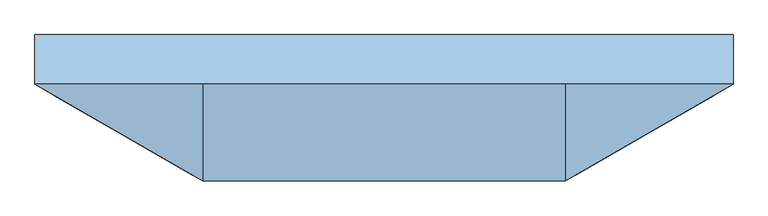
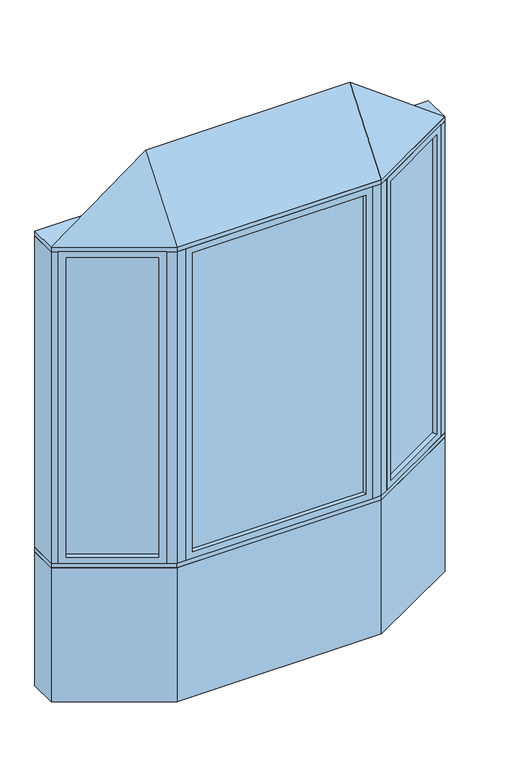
"""IFC4 building model written with IfcOpenShell, lengths in millimetres: window geometry, Pollard_Windows_Tudor Casement Bows and Bays : AML-BAY 30 AFR0618-10-500."""

import ifcopenshell
import ifcopenshell.guid

model = None  # the IFC model being written
_history = None  # IfcOwnerHistory: only IFC2X3 demands one
_inside = {}  # id of a spatial element -> (the spatial element, [elements in it])
_under = {}  # id of a project, library or spatial element -> (it, [spatial elements below it])
_declared = {}  # id of a project -> (the project, [libraries it declares])
_typed = {}  # id of a type object -> (the type object, [elements of that type])
_made_of = {}  # id of a material, layer set ... -> (it, [elements and type objects made of it])


def new_model(schema):
    """Start an empty IFC model of exactly this schema.

    Asked for "IFC4X3", IfcOpenShell would pick the latest addendum, in which some entities
    have other attributes; the version numbers below select the first issue.
    IFC2X3 requires an IfcOwnerHistory on every rooted entity: one is made here for all.
    """
    global model, _history
    if schema == "IFC4X3":
        model = ifcopenshell.file(schema_version=(4, 3, 0, 0))
    else:
        model = ifcopenshell.file(schema=schema)
    _inside.clear()
    _under.clear()
    _declared.clear()
    _typed.clear()
    _made_of.clear()
    _history = None
    if model.schema == "IFC2X3":
        org = make("IfcOrganization", Name="unknown")
        user = make(
            "IfcPersonAndOrganization",
            ThePerson=make("IfcPerson", FamilyName="unknown"),
            TheOrganization=org,
        )
        app = make(
            "IfcApplication",
            ApplicationDeveloper=org,
            Version="unknown",
            ApplicationFullName="unknown",
            ApplicationIdentifier="unknown",
        )
        _history = make(
            "IfcOwnerHistory",
            OwningUser=user,
            OwningApplication=app,
            ChangeAction="ADDED",
            CreationDate=0,
        )
    return model


def make(cls, **values):
    """One entity of the class cls with the attributes given. An attribute that is None is left unset."""
    return model.create_entity(
        cls, **{name: value for name, value in values.items() if value is not None}
    )


def rooted(cls, **values):
    """An entity with a GlobalId (a new one), such as an element, a storey or a relation."""
    return make(cls, GlobalId=ifcopenshell.guid.new(), OwnerHistory=_history, **values)


def si_unit(unit_type, name, prefix=None):
    """IfcSIUnit, for example si_unit("LENGTHUNIT", "METRE", prefix="MILLI")."""
    return make("IfcSIUnit", UnitType=unit_type, Prefix=prefix, Name=name)


def assignment(units):
    """IfcUnitAssignment: the units of a project."""
    return None if units is None else make("IfcUnitAssignment", Units=units)


def point(xyz):
    """IfcCartesianPoint."""
    return None if xyz is None else make("IfcCartesianPoint", Coordinates=xyz)


def direction(xyz):
    """IfcDirection."""
    return None if xyz is None else make("IfcDirection", DirectionRatios=xyz)


def frame(location, z_axis=None, x_axis=None):
    """IfcAxis2Placement3D, a coordinate frame: its origin and axes. An axis left out is left unset."""
    return make(
        "IfcAxis2Placement3D",
        Location=point(location),
        Axis=direction(z_axis),
        RefDirection=direction(x_axis),
    )


def origin():
    """The frame at (0, 0, 0) with its axes left unset."""
    return frame((0.0, 0.0, 0.0))


def origin_with_axes():
    """The frame at (0, 0, 0) with the z axis (0, 0, 1) and the x axis (1, 0, 0) written out."""
    return frame((0.0, 0.0, 0.0), z_axis=(0.0, 0.0, 1.0), x_axis=(1.0, 0.0, 0.0))


def place(relative_to, where):
    """IfcLocalPlacement: puts the frame where relative to a parent placement (None: the world)."""
    return make(
        "IfcLocalPlacement", PlacementRelTo=relative_to, RelativePlacement=where
    )


def context(
    kind, dimensions, precision=None, world=None, true_north=None, identifier=None
):
    """IfcGeometricRepresentationContext, for example the 3D "Model" context."""
    return make(
        "IfcGeometricRepresentationContext",
        ContextIdentifier=identifier,
        ContextType=kind,
        CoordinateSpaceDimension=dimensions,
        Precision=precision,
        WorldCoordinateSystem=world,
        TrueNorth=true_north,
    )


def project(units=None, contexts=None):
    """IfcProject with its units and contexts."""
    return rooted(
        "IfcProject",
        Name="project",
        RepresentationContexts=contexts,
        UnitsInContext=assignment(units),
    )


def spatial(cls, under=None, at=None, **own):
    """A site, building, storey or space (cls), placed at a placement, below another one or the project."""
    s = rooted(cls, ObjectPlacement=at, **own)
    if under is not None:
        _under.setdefault(under.id(), (under, []))[1].append(s)
    return s


def polyline(points):
    """IfcPolyline through the points."""
    return make("IfcPolyline", Points=[point(p) for p in points])


def outline(outer, holes=None, kind="AREA"):
    """IfcArbitraryClosedProfileDef: a profile drawn as a closed curve; with holes, ...WithVoids."""
    if holes is None:
        return make("IfcArbitraryClosedProfileDef", ProfileType=kind, OuterCurve=outer)
    return make(
        "IfcArbitraryProfileDefWithVoids",
        ProfileType=kind,
        OuterCurve=outer,
        InnerCurves=holes,
    )


def extrude(swept, where, along, depth):
    """IfcExtrudedAreaSolid: the profile swept, set in the frame where, extruded along a direction by depth."""
    return make(
        "IfcExtrudedAreaSolid",
        SweptArea=swept,
        Position=where,
        ExtrudedDirection=direction(along),
        Depth=depth,
    )


def faces_of(points, faces, orient=None, outer=None):
    """IfcFace entities. A face is a list of loops; a loop is a list of indices into points, from 0.

    orient and outer hold one flag for each loop. By default every Orientation is true, the
    first loop of a face is its IfcFaceOuterBound and the others are IfcFaceBound.
    """
    made = []
    for i, loops in enumerate(faces):
        bounds = []
        for j, loop in enumerate(loops):
            is_outer = j == 0 if outer is None else outer[i][j]
            bounds.append(
                make(
                    "IfcFaceOuterBound" if is_outer else "IfcFaceBound",
                    Bound=make("IfcPolyLoop", Polygon=[points[k] for k in loop]),
                    Orientation=True if orient is None else orient[i][j],
                )
            )
        made.append(make("IfcFace", Bounds=bounds))
    return made


def faceted_brep(points, faces, orient=None, outer=None, voids=None):
    """IfcFacetedBrep: a solid bounded by flat faces; with voids (closed shells), ...WithVoids."""
    shared = [point(p) for p in points]
    hull = make("IfcClosedShell", CfsFaces=faces_of(shared, faces, orient, outer))
    if voids is None:
        return make("IfcFacetedBrep", Outer=hull)
    return make(
        "IfcFacetedBrepWithVoids",
        Outer=hull,
        Voids=[
            make(cls, CfsFaces=faces_of(shared, fs, o, b)) for cls, fs, o, b in voids
        ],
    )


def shape(context_of_items, identifier, shape_type, items):
    """IfcShapeRepresentation: the items that make up one representation, for example the "Body"."""
    return make(
        "IfcShapeRepresentation",
        ContextOfItems=context_of_items,
        RepresentationIdentifier=identifier,
        RepresentationType=shape_type,
        Items=items,
    )


def source(mapping_origin, context_of_items, identifier, shape_type, items):
    """IfcRepresentationMap: a shape defined once, which mapped items show again and again."""
    return make(
        "IfcRepresentationMap",
        MappingOrigin=mapping_origin,
        MappedRepresentation=shape(context_of_items, identifier, shape_type, items),
    )


def transform(
    local_origin,
    x_axis=None,
    y_axis=None,
    z_axis=None,
    scale=None,
    scale2=None,
    scale3=None,
    uniform=True,
):
    """IfcCartesianTransformationOperator3D, or its non-uniform kind. x_axis, y_axis, z_axis: its Axis1, 2, 3."""
    if uniform:
        return make(
            "IfcCartesianTransformationOperator3D",
            Axis1=direction(x_axis),
            Axis2=direction(y_axis),
            LocalOrigin=point(local_origin),
            Scale=scale,
            Axis3=direction(z_axis),
        )
    return make(
        "IfcCartesianTransformationOperator3DnonUniform",
        Axis1=direction(x_axis),
        Axis2=direction(y_axis),
        LocalOrigin=point(local_origin),
        Scale=scale,
        Axis3=direction(z_axis),
        Scale2=scale2,
        Scale3=scale3,
    )


def mapped(mapping_source, mapping_target):
    """IfcMappedItem: shows the shape of a source again, moved by a transform."""
    return make(
        "IfcMappedItem", MappingSource=mapping_source, MappingTarget=mapping_target
    )


def made_of(thing, what):
    """Note that an element or type object is made of a material, layer set ...; save() writes the relation."""
    if what is not None:
        _made_of.setdefault(what.id(), (what, []))[1].append(thing)
    return thing


def element(
    cls,
    number,
    at=None,
    inside=None,
    cuts=None,
    type_object=None,
    material=None,
    context=None,
    identifier="Body",
    shape_type=None,
    held_by="IfcProductDefinitionShape",
    body=None,
    shapes=None,
    **own,
):
    """One element of the class cls, such as IfcWall. Its Tag is "e" and its number.

    at: its placement. inside: the storey or other place that contains it. cuts: it is an
    opening in that element (IfcRelVoidsElement). A single representation is given by context,
    identifier, shape_type and body (its items); several are given by shapes. held_by: the class
    of the entity that holds the representations. save() writes the other relations.
    """
    e = rooted(cls, Tag="e%d" % number, ObjectPlacement=at, **own)
    if body is not None:
        shapes = [shape(context, identifier, shape_type, body)]
    if shapes is not None:
        e.Representation = make(held_by, Representations=shapes)
    if inside is not None:
        _inside.setdefault(inside.id(), (inside, []))[1].append(e)
    if cuts is not None:
        rooted(
            "IfcRelVoidsElement", RelatingBuildingElement=cuts, RelatedOpeningElement=e
        )
    if type_object is not None:
        _typed.setdefault(type_object.id(), (type_object, []))[1].append(e)
    return made_of(e, material)


def aggregate(whole, parts):
    """IfcRelAggregates: a whole, such as a stair, and the parts it consists of."""
    return rooted("IfcRelAggregates", RelatingObject=whole, RelatedObjects=parts)


def save(model, path):
    """Write the relations noted so far, then the file.

    IfcRelAggregates (storeys below a building ...), IfcRelContainedInSpatialStructure (elements
    in a storey), IfcRelDefinesByType, IfcRelAssociatesMaterial and IfcRelDeclares: one each for
    every whole, place, type object, material and project.
    """
    for whole, parts in _under.values():
        aggregate(whole, parts)
    for where, things in _inside.values():
        rooted(
            "IfcRelContainedInSpatialStructure",
            RelatedElements=things,
            RelatingStructure=where,
        )
    for kind, things in _typed.values():
        rooted("IfcRelDefinesByType", RelatedObjects=things, RelatingType=kind)
    for what, things in _made_of.values():
        rooted("IfcRelAssociatesMaterial", RelatedObjects=things, RelatingMaterial=what)
    for by, libraries in _declared.values():
        rooted("IfcRelDeclares", RelatingContext=by, RelatedDefinitions=libraries)
    model.write(path)


def window_d05f0d2b(model_context):
    return source(origin(), model_context, "Body", "SolidModel", [
        extrude(outline(polyline([(1013.112102, -82.0482469), (610.2320119, -314.6511754), (607.6920119, -310.2517664), (1010.572102, -77.6488379), (1013.112102, -82.0482469)])), frame((0.0, 0.0, 823.1628), z_axis=(0.0, 0.0, 1.0), x_axis=(1.0, 0.0, 0.0)), (0.0, 0.0, 1.0), 1753.6704),
        faceted_brep([(1002.1135794, -88.3982469, 835.8628), (1014.8135794, -110.3952922, 835.8628), (1014.8135794, -110.3952922, 2564.1332), (1002.1135794, -88.3982469, 2564.1332), (1010.572102, -77.6488379, 823.1628), (1013.112102, -82.0482469, 823.1628), (1013.112102, -82.0482469, 2576.8332), (1010.572102, -77.6488379, 2576.8332), (986.8735794, -62.0017926, 835.8628), (999.5735794, -83.9988379, 835.8628), (999.5735794, -83.9988379, 2564.1332), (986.8735794, -62.0017926, 2564.1332), (1045.8734073, -92.4628922, 799.998), (1017.9334073, -44.0693926, 799.998), (1017.9334073, -44.0693926, 2599.998), (1045.8734073, -92.4628922, 2599.998), (633.9305346, -330.2982207, 2564.1332), (621.2305346, -308.3011754, 2564.1332), (610.2320119, -314.6511754, 2576.8332), (607.6920119, -310.2517664, 2576.8332), (618.6905346, -303.9017664, 2564.1332), (605.9905346, -281.9047211, 2564.1332), (574.9307067, -299.8371211, 2599.998), (602.8707067, -348.2306207, 2599.998), (633.9305346, -330.2982207, 835.8628), (621.2305346, -308.3011754, 835.8628), (610.2320119, -314.6511754, 823.1628), (607.6920119, -310.2517664, 823.1628), (618.6905346, -303.9017664, 835.8628), (605.9905346, -281.9047211, 835.8628), (574.9307067, -299.8371211, 799.998), (602.8707067, -348.2306207, 799.998)], [[[0, 1, 2, 3]], [[4, 5, 6, 7]], [[8, 9, 10, 11]], [[12, 13, 14, 15]], [[3, 2, 16, 17]], [[7, 6, 18, 19]], [[11, 10, 20, 21]], [[15, 14, 22, 23]], [[17, 16, 24, 25]], [[19, 18, 26, 27]], [[21, 20, 28, 29]], [[23, 22, 30, 31]], [[25, 24, 1, 0]], [[5, 26, 18, 6], [3, 17, 25, 0]], [[27, 26, 5, 4]], [[7, 19, 27, 4], [9, 28, 20, 10]], [[29, 28, 9, 8]], [[13, 30, 22, 14], [11, 21, 29, 8]], [[31, 30, 13, 12]], [[15, 23, 31, 12], [1, 24, 16, 2]]]),
        extrude(outline(polyline([(-610.2320119, -314.6511754), (-1013.112102, -82.0482469), (-1010.572102, -77.6488379), (-607.6920119, -310.2517664), (-610.2320119, -314.6511754)])), frame((0.0, 0.0, 823.1628), z_axis=(0.0, 0.0, 1.0), x_axis=(1.0, 0.0, 0.0)), (0.0, 0.0, 1.0), 1753.6704),
        faceted_brep([(-618.6905346, -303.9017664, 2564.1332), (-605.9905346, -281.9047211, 2564.1332), (-605.9905346, -281.9047211, 835.8628), (-618.6905346, -303.9017664, 835.8628), (-610.2320119, -314.6511754, 2576.8332), (-607.6920119, -310.2517664, 2576.8332), (-607.6920119, -310.2517664, 823.1628), (-610.2320119, -314.6511754, 823.1628), (-633.9305346, -330.2982207, 2564.1332), (-621.2305346, -308.3011754, 2564.1332), (-621.2305346, -308.3011754, 835.8628), (-633.9305346, -330.2982207, 835.8628), (-574.9307067, -299.8371211, 2599.998), (-602.8707067, -348.2306207, 2599.998), (-602.8707067, -348.2306207, 799.998), (-574.9307067, -299.8371211, 799.998), (-986.8735794, -62.0017926, 835.8628), (-999.5735794, -83.9988379, 835.8628), (-1010.572102, -77.6488379, 823.1628), (-1013.112102, -82.0482469, 823.1628), (-1002.1135794, -88.3982469, 835.8628), (-1014.8135794, -110.3952922, 835.8628), (-1045.8734073, -92.4628922, 799.998), (-1017.9334073, -44.0693926, 799.998), (-986.8735794, -62.0017926, 2564.1332), (-999.5735794, -83.9988379, 2564.1332), (-1010.572102, -77.6488379, 2576.8332), (-1013.112102, -82.0482469, 2576.8332), (-1002.1135794, -88.3982469, 2564.1332), (-1014.8135794, -110.3952922, 2564.1332), (-1045.8734073, -92.4628922, 2599.998), (-1017.9334073, -44.0693926, 2599.998)], [[[0, 1, 2, 3]], [[4, 5, 6, 7]], [[8, 9, 10, 11]], [[12, 13, 14, 15]], [[3, 2, 16, 17]], [[7, 6, 18, 19]], [[11, 10, 20, 21]], [[15, 14, 22, 23]], [[17, 16, 24, 25]], [[19, 18, 26, 27]], [[21, 20, 28, 29]], [[23, 22, 30, 31]], [[15, 23, 31, 12], [1, 24, 16, 2]], [[25, 24, 1, 0]], [[5, 26, 18, 6], [3, 17, 25, 0]], [[27, 26, 5, 4]], [[7, 19, 27, 4], [9, 28, 20, 10]], [[29, 28, 9, 8]], [[13, 30, 22, 14], [11, 21, 29, 8]], [[31, 30, 13, 12]]]),
        extrude(outline(polyline([(486.4046365, -347.8306207), (-486.4046365, -347.8306207), (-486.4046365, -342.7506207), (486.4046365, -342.7506207), (486.4046365, -347.8306207)])), frame((0.0, 0.0, 823.1628), z_axis=(0.0, 0.0, 1.0), x_axis=(1.0, 0.0, 0.0)), (0.0, 0.0, 1.0), 1753.6704),
        faceted_brep([(473.7046365, -347.8306207, 835.8628), (473.7046365, -373.2306207, 835.8628), (473.7046365, -373.2306207, 2564.1332), (473.7046365, -347.8306207, 2564.1332), (486.4046365, -342.7506207, 823.1628), (486.4046365, -347.8306207, 823.1628), (486.4046365, -347.8306207, 2576.8332), (486.4046365, -342.7506207, 2576.8332), (473.7046365, -317.3506207, 835.8628), (473.7046365, -342.7506207, 835.8628), (473.7046365, -342.7506207, 2564.1332), (473.7046365, -317.3506207, 2564.1332), (509.5694365, -373.2306207, 799.998), (509.5694365, -317.3506207, 799.998), (509.5694365, -317.3506207, 2599.998), (509.5694365, -373.2306207, 2599.998), (-473.7046365, -373.2306207, 2564.1332), (-473.7046365, -347.8306207, 2564.1332), (-486.4046365, -347.8306207, 2576.8332), (-486.4046365, -342.7506207, 2576.8332), (-473.7046365, -342.7506207, 2564.1332), (-473.7046365, -317.3506207, 2564.1332), (-509.5694365, -317.3506207, 2599.998), (-509.5694365, -373.2306207, 2599.998), (-473.7046365, -373.2306207, 835.8628), (-473.7046365, -347.8306207, 835.8628), (-486.4046365, -347.8306207, 823.1628), (-486.4046365, -342.7506207, 823.1628), (-473.7046365, -342.7506207, 835.8628), (-473.7046365, -317.3506207, 835.8628), (-509.5694365, -317.3506207, 799.998), (-509.5694365, -373.2306207, 799.998)], [[[0, 1, 2, 3]], [[4, 5, 6, 7]], [[8, 9, 10, 11]], [[12, 13, 14, 15]], [[3, 2, 16, 17]], [[7, 6, 18, 19]], [[11, 10, 20, 21]], [[15, 14, 22, 23]], [[17, 16, 24, 25]], [[19, 18, 26, 27]], [[21, 20, 28, 29]], [[23, 22, 30, 31]], [[15, 23, 31, 12], [1, 24, 16, 2]], [[25, 24, 1, 0]], [[5, 26, 18, 6], [3, 17, 25, 0]], [[27, 26, 5, 4]], [[7, 19, 27, 4], [9, 28, 20, 10]], [[29, 28, 9, 8]], [[13, 30, 22, 14], [11, 21, 29, 8]], [[31, 30, 13, 12]]]),
        faceted_brep([(1076.5, -74.7806207, 2625.398), (559.5694365, -373.2306207, 2625.398), (-559.5694365, -373.2306207, 2625.398), (-1076.5, -74.7806207, 2625.398), (-559.5694365, -74.7806207, 3006.398), (559.5694365, -74.7806207, 3006.398)], [[[0, 1, 2, 3]], [[3, 2, 4]], [[2, 1, 5, 4]], [[1, 0, 5]], [[0, 3, 4, 5]]]),
        extrude(outline(polyline([(-1076.5, 77.6193793), (1076.5, 77.6193793), (1076.5, -74.7806207), (559.5694365, -373.2306207), (-559.5694365, -373.2306207), (-1076.5, -74.7806207), (-1076.5, 77.6193793)])), frame((0.0, 0.0, 2599.998), z_axis=(0.0, 0.0, 1.0), x_axis=(1.0, 0.0, 0.0)), (0.0, 0.0, 1.0), 25.4),
        extrude(outline(polyline([(-1076.5, -74.7806207), (-1076.5, 77.6193793), (-1035.6645431, 77.6193793), (-1035.6645431, -74.7806207), (-1045.8734073, -92.4628922), (-1076.5, -74.7806207)])), frame((0.0, 0.0, 799.998), z_axis=(0.0, 0.0, 1.0), x_axis=(1.0, 0.0, 0.0)), (0.0, 0.0, 1.0), 1800.0),
        extrude(outline(polyline([(1076.5, 77.6193793), (1076.5, -74.7806207), (1045.8734073, -92.4628922), (1035.6645431, -74.7806207), (1035.6645431, 77.6193793), (1076.5, 77.6193793)])), frame((0.0, 0.0, 799.998), z_axis=(0.0, 0.0, 1.0), x_axis=(1.0, 0.0, 0.0)), (0.0, 0.0, 1.0), 1800.0),
        extrude(outline(polyline([(559.5694365, -373.2306207), (509.5694365, -373.2306207), (509.5694365, -323.2306207), (546.1719769, -323.2306207), (577.8707067, -304.9293505), (602.8707067, -348.2306207), (559.5694365, -373.2306207)])), frame((0.0, 0.0, 799.998), z_axis=(0.0, 0.0, 1.0), x_axis=(1.0, 0.0, 0.0)), (0.0, 0.0, 1.0), 1800.0),
        extrude(outline(polyline([(-559.5694365, -373.2306207), (-602.8707067, -348.2306207), (-577.8707067, -304.9293505), (-546.1719769, -323.2306207), (-509.5694365, -323.2306207), (-509.5694365, -373.2306207), (-559.5694365, -373.2306207)])), frame((0.0, 0.0, 799.998), z_axis=(0.0, 0.0, 1.0), x_axis=(1.0, 0.0, 0.0)), (0.0, 0.0, 1.0), 1800.0),
        extrude(outline(polyline([(-559.5694365, -373.2306207), (-1076.5, -74.7806207), (-1076.5, 77.6193793), (-1035.6645431, 77.6193793), (-518.7339796, -220.8306207), (518.7339796, -220.8306207), (1035.6645431, 77.6193793), (1076.5, 77.6193793), (1076.5, -74.7806207), (559.5694365, -373.2306207), (-559.5694365, -373.2306207)])), frame((0.0, 0.0, 774.598), z_axis=(0.0, 0.0, 1.0), x_axis=(1.0, 0.0, 0.0)), (0.0, 0.0, 1.0), 25.4),
        extrude(outline(polyline([(-1076.5, -74.7806207), (-1076.5, 77.6193793), (-1035.6645431, 77.6193793), (-518.7339796, -220.8306207), (518.7339796, -220.8306207), (1035.6645431, 77.6193793), (1076.5, 77.6193793), (1076.5, -74.7806207), (559.5694365, -373.2306207), (-559.5694365, -373.2306207), (-1076.5, -74.7806207)])), origin_with_axes(), (0.0, 0.0, 1.0), 774.598),
    ])


if __name__ == "__main__":
    model = new_model("IFC4")
    model_context = context("Model", 3, world=origin())
    ifc_project = project(units=[si_unit("LENGTHUNIT", "METRE", prefix="MILLI")], contexts=[model_context])
    site = spatial("IfcSite", under=ifc_project)
    building = spatial("IfcBuilding", under=site)
    placement = place(None, origin())
    window_shape = window_d05f0d2b(model_context)
    element("IfcWindow", 1, ObjectType="Pollard_Windows_Tudor Casement Bows and Bays : AML-BAY 30 AFR0618-10-500", at=placement, inside=building, context=model_context, shape_type="MappedRepresentation", body=[
        mapped(window_shape, transform((0.0, 0.0, 0.0), x_axis=(1.0, 0.0, 0.0), y_axis=(0.0, 1.0, 0.0), z_axis=(0.0, 0.0, 1.0))),
    ])
    save(model, "model.ifc")
